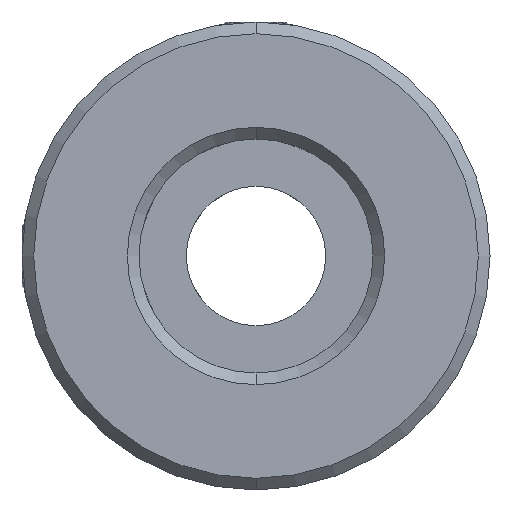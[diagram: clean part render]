
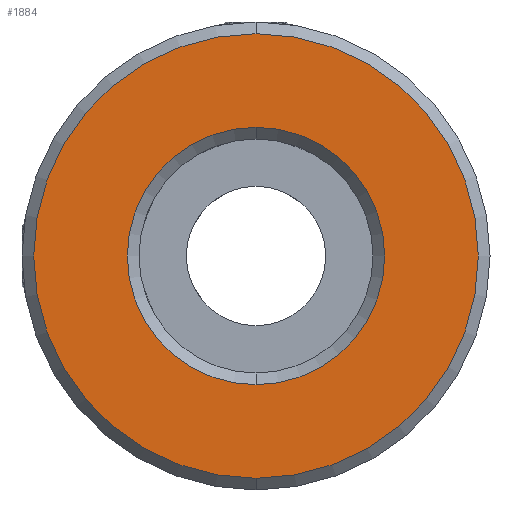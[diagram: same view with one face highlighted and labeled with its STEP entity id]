
A CAD part, front view. The second image highlights one B-rep face of the part: STEP entity #1884.
In plain terms, the highlighted planar face has unit normal (0, -1, 0).
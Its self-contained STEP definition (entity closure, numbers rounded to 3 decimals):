
#363 = DIRECTION ( 'NONE',  ( 0., -1., 0. ) ) ;
#365 = CARTESIAN_POINT ( 'NONE',  ( -10.188, -0.277, -8.754 ) ) ;
#389 = VERTEX_POINT ( 'NONE', #1315 ) ;
#390 = EDGE_CURVE ( 'NONE', #389, #1648, #2752, .T. ) ;
#460 = DIRECTION ( 'NONE',  ( 0., 0., 1. ) ) ;
#655 = DIRECTION ( 'NONE',  ( 0., 0., 1. ) ) ;
#752 = DIRECTION ( 'NONE',  ( 0., -1., 0. ) ) ;
#830 = ORIENTED_EDGE ( 'NONE', *, *, #1053, .T. ) ;
#863 = AXIS2_PLACEMENT_3D ( 'NONE', #2411, #1579, #655 ) ;
#903 = ORIENTED_EDGE ( 'NONE', *, *, #3738, .T. ) ;
#1053 = EDGE_CURVE ( 'NONE', #2415, #2263, #3041, .T. ) ;
#1115 = FACE_OUTER_BOUND ( 'NONE', #3276, .T. ) ;
#1224 = CIRCLE ( 'NONE', #2020, 8.8 ) ;
#1228 = AXIS2_PLACEMENT_3D ( 'NONE', #3719, #1780, #1757 ) ;
#1315 = CARTESIAN_POINT ( 'NONE',  ( -10.188, -0.277, 8.846 ) ) ;
#1350 = CARTESIAN_POINT ( 'NONE',  ( -10.188, -0.277, 0.046 ) ) ;
#1579 = DIRECTION ( 'NONE',  ( 0., 1., 0. ) ) ;
#1625 = CARTESIAN_POINT ( 'NONE',  ( -10.188, -0.277, 0.046 ) ) ;
#1635 = DIRECTION ( 'NONE',  ( 0., 1., 0. ) ) ;
#1648 = VERTEX_POINT ( 'NONE', #365 ) ;
#1757 = DIRECTION ( 'NONE',  ( 0., 0., 1. ) ) ;
#1780 = DIRECTION ( 'NONE',  ( 0., 1., 0. ) ) ;
#1783 = CARTESIAN_POINT ( 'NONE',  ( -10.188, -0.277, 15.246 ) ) ;
#1835 = DIRECTION ( 'NONE',  ( 0., 0., 1. ) ) ;
#1884 = ADVANCED_FACE ( 'NONE', ( #1115, #3739 ), #2267, .F. ) ;
#2020 = AXIS2_PLACEMENT_3D ( 'NONE', #1350, #1635, #2505 ) ;
#2048 = AXIS2_PLACEMENT_3D ( 'NONE', #2407, #363, #1835 ) ;
#2263 = VERTEX_POINT ( 'NONE', #2783 ) ;
#2267 = PLANE ( 'NONE',  #1228 ) ;
#2331 = ORIENTED_EDGE ( 'NONE', *, *, #3546, .T. ) ;
#2407 = CARTESIAN_POINT ( 'NONE',  ( -10.188, -0.277, 0.046 ) ) ;
#2411 = CARTESIAN_POINT ( 'NONE',  ( -10.188, -0.277, 0.046 ) ) ;
#2415 = VERTEX_POINT ( 'NONE', #1783 ) ;
#2505 = DIRECTION ( 'NONE',  ( 0., 0., 1. ) ) ;
#2701 = ORIENTED_EDGE ( 'NONE', *, *, #390, .T. ) ;
#2752 = CIRCLE ( 'NONE', #863, 8.8 ) ;
#2783 = CARTESIAN_POINT ( 'NONE',  ( -10.188, -0.277, -15.154 ) ) ;
#2974 = EDGE_LOOP ( 'NONE', ( #903, #2701 ) ) ;
#3041 = CIRCLE ( 'NONE', #3650, 15.2 ) ;
#3276 = EDGE_LOOP ( 'NONE', ( #830, #2331 ) ) ;
#3546 = EDGE_CURVE ( 'NONE', #2263, #2415, #3664, .T. ) ;
#3650 = AXIS2_PLACEMENT_3D ( 'NONE', #1625, #752, #460 ) ;
#3664 = CIRCLE ( 'NONE', #2048, 15.2 ) ;
#3719 = CARTESIAN_POINT ( 'NONE',  ( -10.188, -0.277, 0.046 ) ) ;
#3738 = EDGE_CURVE ( 'NONE', #1648, #389, #1224, .T. ) ;
#3739 = FACE_BOUND ( 'NONE', #2974, .T. ) ;
